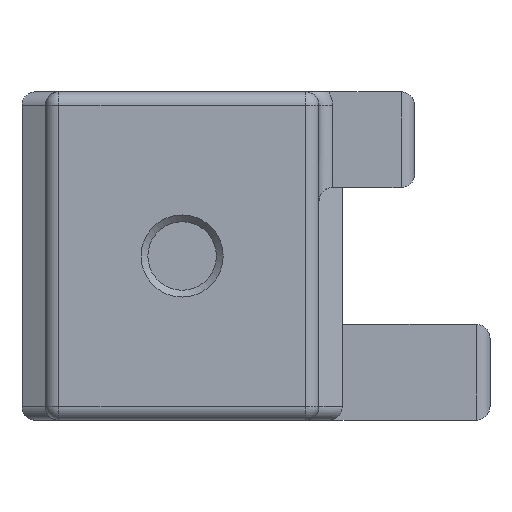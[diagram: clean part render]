
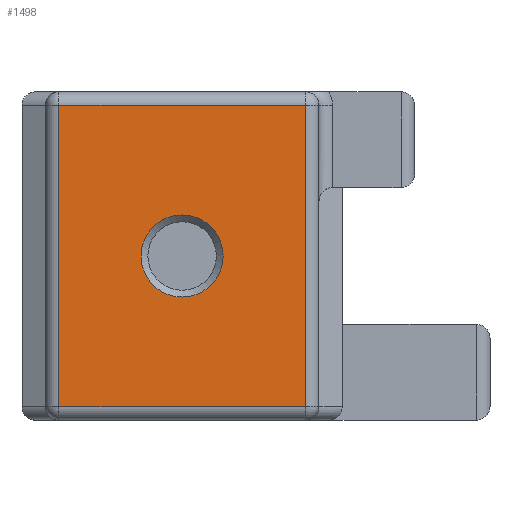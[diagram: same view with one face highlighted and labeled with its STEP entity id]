
A CAD part, front view. The second image highlights one B-rep face of the part: STEP entity #1498.
In plain terms, the highlighted planar face has unit normal (0, -1, 0).
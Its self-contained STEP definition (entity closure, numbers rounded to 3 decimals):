
#111=FACE_BOUND('',#263,.T.);
#122=PLANE('',#1630);
#158=FACE_OUTER_BOUND('',#262,.T.);
#262=EDGE_LOOP('',(#1102,#1103,#1104,#1105));
#263=EDGE_LOOP('',(#1106));
#395=LINE('',#2435,#528);
#396=LINE('',#2437,#529);
#397=LINE('',#2439,#530);
#398=LINE('',#2440,#531);
#528=VECTOR('',#1877,10.);
#529=VECTOR('',#1878,10.);
#530=VECTOR('',#1879,10.);
#531=VECTOR('',#1880,10.);
#635=CIRCLE('',#1627,3.);
#730=VERTEX_POINT('',#2425);
#733=VERTEX_POINT('',#2433);
#734=VERTEX_POINT('',#2434);
#735=VERTEX_POINT('',#2436);
#736=VERTEX_POINT('',#2438);
#865=EDGE_CURVE('',#730,#730,#635,.T.);
#869=EDGE_CURVE('',#733,#734,#395,.T.);
#870=EDGE_CURVE('',#735,#733,#396,.T.);
#871=EDGE_CURVE('',#736,#735,#397,.T.);
#872=EDGE_CURVE('',#734,#736,#398,.T.);
#1102=ORIENTED_EDGE('',*,*,#869,.F.);
#1103=ORIENTED_EDGE('',*,*,#870,.F.);
#1104=ORIENTED_EDGE('',*,*,#871,.F.);
#1105=ORIENTED_EDGE('',*,*,#872,.F.);
#1106=ORIENTED_EDGE('',*,*,#865,.F.);
#1498=ADVANCED_FACE('',(#158,#111),#122,.T.);
#1627=AXIS2_PLACEMENT_3D('',#2426,#1868,#1869);
#1630=AXIS2_PLACEMENT_3D('',#2432,#1875,#1876);
#1868=DIRECTION('center_axis',(0.,-1.,0.));
#1869=DIRECTION('ref_axis',(-1.,0.,0.));
#1875=DIRECTION('center_axis',(0.,-1.,0.));
#1876=DIRECTION('ref_axis',(1.,0.,0.));
#1877=DIRECTION('',(-1.,0.,0.));
#1878=DIRECTION('',(0.,0.,-1.));
#1879=DIRECTION('',(1.,0.,0.));
#1880=DIRECTION('',(0.,0.,1.));
#2425=CARTESIAN_POINT('',(187.,-116.,12.));
#2426=CARTESIAN_POINT('Origin',(184.,-116.,12.));
#2432=CARTESIAN_POINT('Origin',(174.,-116.,0.));
#2433=CARTESIAN_POINT('',(193.,-116.,1.));
#2434=CARTESIAN_POINT('',(175.,-116.,1.));
#2435=CARTESIAN_POINT('',(179.,-116.,1.));
#2436=CARTESIAN_POINT('',(193.,-116.,23.));
#2437=CARTESIAN_POINT('',(193.,-116.,0.));
#2438=CARTESIAN_POINT('',(175.,-116.,23.));
#2439=CARTESIAN_POINT('',(179.,-116.,23.));
#2440=CARTESIAN_POINT('',(175.,-116.,0.));
